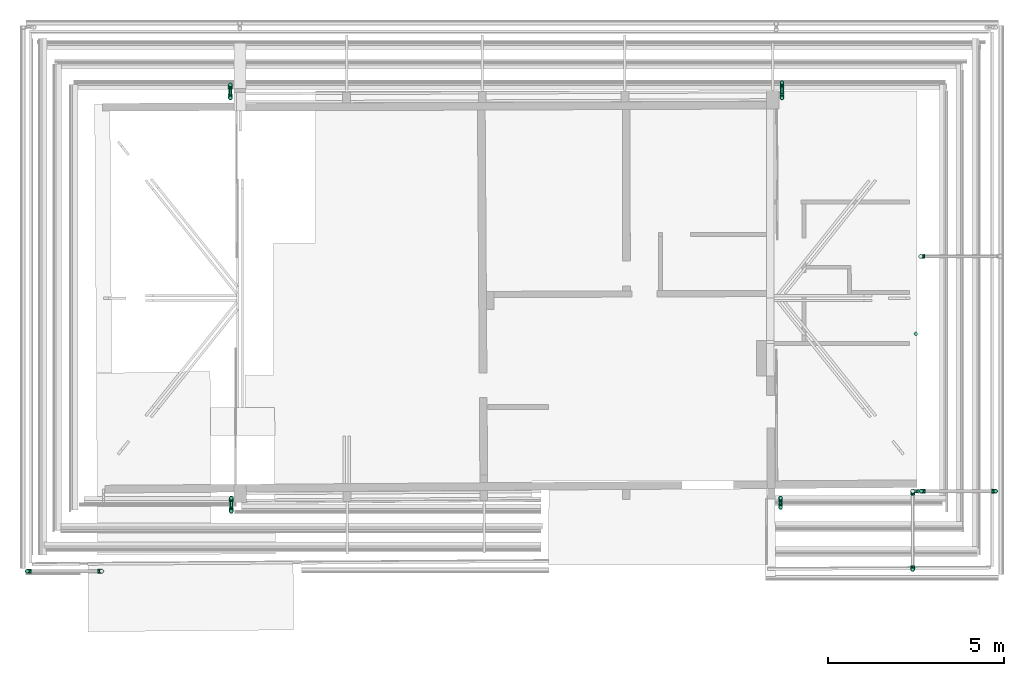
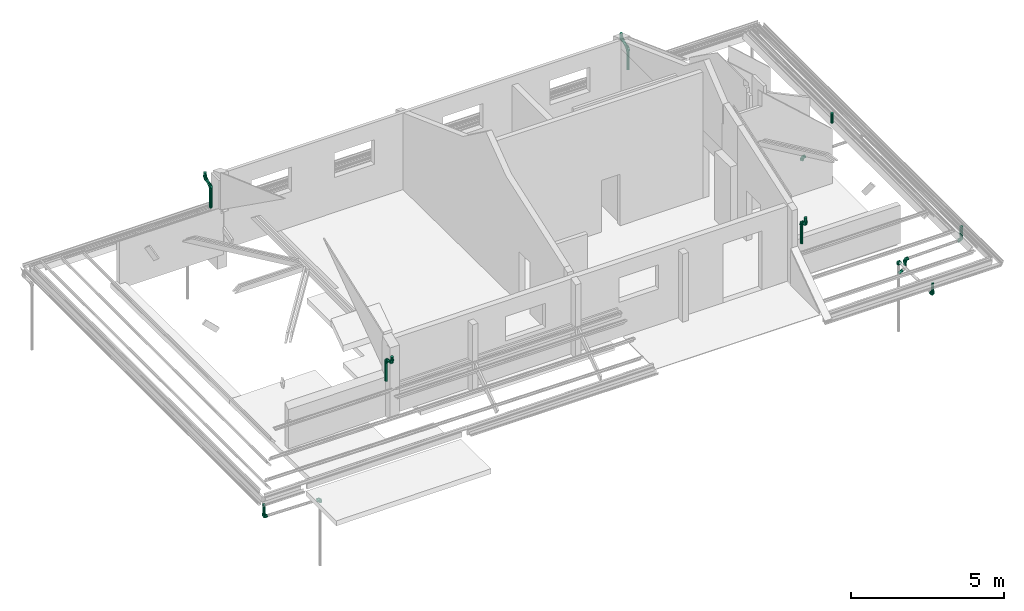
# One storey, part 12 of 15: 18 flow segments, 15 flow fittings.
"""IFC2X3 building model written with IfcOpenShell, lengths in centimetres."""

from ifc_helpers import new_model, entity, si_unit, converted_unit, direction, frame, frame_2d, origin, origin_2d_with_axis, place, context, subcontext, project, spatial, circle, extrude, faceted_brep, source, transform, mapped, material, type_object, type_shapes, element, save


model = new_model("IFC2X3")

# Units and contexts
model_context = context("Model", 3, precision=0.001, world=frame((0.0, 0.0, 13090.0)), true_north=direction((6.123233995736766e-17, 1.0)))
body_context = subcontext(model_context, "Body", "Model", "MODEL_VIEW")
ifc_project = project(units=[si_unit("LENGTHUNIT", "METRE", prefix="CENTI"), si_unit("AREAUNIT", "SQUARE_METRE"), si_unit("VOLUMEUNIT", "CUBIC_METRE"), converted_unit("PLANEANGLEUNIT", "DEGREE", entity("IfcPlaneAngleMeasure", 0.017453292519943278), si_unit("PLANEANGLEUNIT", "RADIAN"), dimensions=[0, 0, 0, 0, 0, 0, 0])], contexts=[model_context])

# Site, building, storey
site_placement = place(None, origin())
site = spatial("IfcSite", under=ifc_project, at=site_placement, Name="Default", CompositionType="ELEMENT")
building_placement = place(site_placement, origin())
building = spatial("IfcBuilding", under=site, at=building_placement, Name="e 39 logements et 22 maisons relais", CompositionType="ELEMENT")
storey_placement = place(building_placement, frame((0.0, 0.0, 340.0)))
storey = spatial("IfcBuildingStorey", under=building, at=storey_placement, Name="R+1", CompositionType="ELEMENT", Elevation=339.99999999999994)

# Flow segments
pipe_segment_type = type_object("IfcPipeSegmentType", Name="Canalisation:Par défaut", PredefinedType="NOTDEFINED")
flow_segment_1_placement = place(storey_placement, origin())
element("IfcFlowSegment", 1, at=flow_segment_1_placement, inside=storey, type_object=pipe_segment_type, Name="Canalisation:Par défaut", ObjectType="Canalisation:Par défaut", context=body_context, shape_type="SweptSolid", body=[
    extrude(circle(Radius=5.0, at=origin_2d_with_axis()), frame((1001.5149969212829, -795.4489017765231, -45.083642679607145), z_axis=(0.0, 0.0, 1.0), x_axis=(-1.0, 0.0, 0.0)), (0.0, 0.0, 1.0), 33.280613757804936),
])
flow_segment_2_placement = place(storey_placement, origin())
element("IfcFlowSegment", 2, at=flow_segment_2_placement, inside=storey, type_object=pipe_segment_type, Name="Canalisation:Par défaut", ObjectType="Canalisation:Par défaut", context=body_context, shape_type="SweptSolid", body=[
    extrude(circle(Radius=5.0, at=origin_2d_with_axis()), frame((-1517.8750086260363, -800.1747257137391, -45.25790675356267), z_axis=(0.0, 0.0, 1.0), x_axis=(-1.0, 0.0, 0.0)), (0.0, 0.0, 1.0), 37.757906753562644),
])
flow_segment_3_placement = place(storey_placement, origin())
element("IfcFlowSegment", 3, at=flow_segment_3_placement, inside=storey, type_object=pipe_segment_type, Name="Canalisation:Par défaut", ObjectType="Canalisation:Par défaut", context=body_context, shape_type="SweptSolid", body=[
    extrude(circle(Radius=5.0, at=frame_2d((1.0828671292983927e-13, 0.0), x_axis=(1.0, 0.0))), frame((-937.355660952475, -630.0993969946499, 261.7298994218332), z_axis=(0.0, 0.0, 1.0), x_axis=(-1.0, 0.0, 0.0)), (0.0, 0.0, 1.0), 12.28750000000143),
])
flow_segment_4_placement = place(storey_placement, origin())
element("IfcFlowSegment", 4, at=flow_segment_4_placement, inside=storey, type_object=pipe_segment_type, Name="Canalisation:Par défaut", ObjectType="Canalisation:Par défaut", context=body_context, shape_type="SweptSolid", body=[
    extrude(circle(Radius=5.0, at=origin_2d_with_axis()), frame((-937.355660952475, -602.8686130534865, 241.769581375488), z_axis=(0.0, -0.9510565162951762, 0.3090169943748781), x_axis=(1.0, 0.0, 0.0)), (0.0, 0.0, 1.0), 17.519640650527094),
])
flow_segment_5_placement = place(storey_placement, origin())
element("IfcFlowSegment", 5, at=flow_segment_5_placement, inside=storey, type_object=pipe_segment_type, Name="Canalisation:Par défaut", ObjectType="Canalisation:Par défaut", context=body_context, shape_type="SweptSolid", body=[
    extrude(circle(Radius=5.0, at=frame_2d((0.0, 1.0828671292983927e-13), x_axis=(1.0, 0.0))), frame((-937.3556609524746, -592.2999975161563, 154.13891369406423)), (0.0, 0.0, 1.0), 73.08421633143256),
])
flow_segment_6_placement = place(storey_placement, origin())
element("IfcFlowSegment", 6, at=flow_segment_6_placement, inside=storey, type_object=pipe_segment_type, Name="Canalisation:Par défaut", ObjectType="Canalisation:Par défaut", context=body_context, shape_type="SweptSolid", body=[
    extrude(circle(Radius=5.0, at=origin_2d_with_axis()), frame((625.7304951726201, -618.8203168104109, 258.1136363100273), z_axis=(0.0, 0.0, 1.0), x_axis=(-1.0, 0.0, 0.0)), (0.0, 0.0, 1.0), 15.621795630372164),
])
flow_segment_7_placement = place(storey_placement, origin())
element("IfcFlowSegment", 7, at=flow_segment_7_placement, inside=storey, type_object=pipe_segment_type, Name="Canalisation:Par défaut", ObjectType="Canalisation:Par défaut", context=body_context, shape_type="SweptSolid", body=[
    extrude(circle(Radius=5.0, at=origin_2d_with_axis()), frame((625.7304951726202, -602.8686130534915, 241.81811357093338), z_axis=(0.0, -0.9510565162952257, 0.3090169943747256), x_axis=(1.0, 0.0, 0.0)), (0.0, 0.0, 1.0), 5.660113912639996),
])
flow_segment_8_placement = place(storey_placement, origin())
element("IfcFlowSegment", 8, at=flow_segment_8_placement, inside=storey, type_object=pipe_segment_type, Name="Canalisation:Par défaut", ObjectType="Canalisation:Par défaut", context=body_context, shape_type="SweptSolid", body=[
    extrude(circle(Radius=5.0, at=origin_2d_with_axis()), frame((625.7304951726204, -592.2999975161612, 154.1874458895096)), (0.0, 0.0, 1.0), 73.08421633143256),
])
flow_segment_9_placement = place(storey_placement, origin())
element("IfcFlowSegment", 9, at=flow_segment_9_placement, inside=storey, type_object=pipe_segment_type, Name="Canalisation:Par défaut", ObjectType="Canalisation:Par défaut", context=body_context, shape_type="SweptSolid", body=[
    extrude(circle(Radius=5.0, at=origin_2d_with_axis()), frame((629.7832099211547, 590.146400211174, 263.676875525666)), (0.0, 0.0, 1.0), 8.764949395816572),
])
flow_segment_10_placement = place(storey_placement, origin())
element("IfcFlowSegment", 10, at=flow_segment_10_placement, inside=storey, type_object=pipe_segment_type, Name="Canalisation:Par défaut", ObjectType="Canalisation:Par défaut", context=body_context, shape_type="SweptSolid", body=[
    extrude(circle(Radius=5.0, at=origin_2d_with_axis()), frame((629.7832099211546, 557.0728067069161, 241.81811357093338), z_axis=(0.0, 0.9510565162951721, 0.30901699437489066), x_axis=(-1.0, 0.0, 0.0)), (0.0, 0.0, 1.0), 23.663134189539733),
])
flow_segment_11_placement = place(storey_placement, origin())
element("IfcFlowSegment", 11, at=flow_segment_11_placement, inside=storey, type_object=pipe_segment_type, Name="Canalisation:Par défaut", ObjectType="Canalisation:Par défaut", context=body_context, shape_type="SweptSolid", body=[
    extrude(circle(Radius=5.0, at=origin_2d_with_axis()), frame((629.7832099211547, 546.5041911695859, 154.1874458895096)), (0.0, 0.0, 1.0), 73.08421633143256),
])
flow_segment_12_placement = place(storey_placement, origin())
element("IfcFlowSegment", 12, at=flow_segment_12_placement, inside=storey, type_object=pipe_segment_type, Name="Canalisation:Par défaut", ObjectType="Canalisation:Par défaut", context=body_context, shape_type="SweptSolid", body=[
    extrude(circle(Radius=5.0, at=origin_2d_with_axis()), frame((-939.9537146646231, 583.7188617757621, 261.58844168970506), z_axis=(0.0, 0.0, 1.0), x_axis=(-1.0, 0.0, 0.0)), (0.0, 0.0, 1.0), 10.587500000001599),
])
flow_segment_13_placement = place(storey_placement, origin())
element("IfcFlowSegment", 13, at=flow_segment_13_placement, inside=storey, type_object=pipe_segment_type, Name="Canalisation:Par défaut", ObjectType="Canalisation:Par défaut", context=body_context, shape_type="SweptSolid", body=[
    extrude(circle(Radius=5.0, at=origin_2d_with_axis()), frame((-939.953714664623, 557.072806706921, 241.81811357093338), z_axis=(0.0, 0.9510565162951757, 0.30901699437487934), x_axis=(-1.0, 0.0, 0.0)), (0.0, 0.0, 1.0), 16.90482032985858),
])
flow_segment_14_placement = place(storey_placement, origin())
element("IfcFlowSegment", 14, at=flow_segment_14_placement, inside=storey, type_object=pipe_segment_type, Name="Canalisation:Par défaut", ObjectType="Canalisation:Par défaut", context=body_context, shape_type="SweptSolid", body=[
    extrude(circle(Radius=5.0, at=origin_2d_with_axis()), frame((-939.9537146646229, 546.5041911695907, 154.1874458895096)), (0.0, 0.0, 1.0), 73.08421633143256),
])
flow_segment_15_placement = place(storey_placement, origin())
element("IfcFlowSegment", 15, at=flow_segment_15_placement, inside=storey, type_object=pipe_segment_type, Name="Canalisation:Par défaut", ObjectType="Canalisation:Par défaut", context=body_context, shape_type="SweptSolid", body=[
    extrude(circle(Radius=5.0, at=origin_2d_with_axis()), frame((1237.9420113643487, -572.5218873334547, -45.083642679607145), z_axis=(0.0, 0.0, 1.0), x_axis=(-1.0, 0.0, 0.0)), (0.0, 0.0, 1.0), 41.2),
])
flow_segment_16_placement = place(storey_placement, origin())
element("IfcFlowSegment", 16, at=flow_segment_16_placement, inside=storey, type_object=pipe_segment_type, Name="Canalisation:Par défaut", ObjectType="Canalisation:Par défaut", context=body_context, shape_type="SweptSolid", body=[
    extrude(circle(Radius=5.0, at=origin_2d_with_axis()), frame((1002.1455516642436, -572.521887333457, -109.35900141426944), z_axis=(0.8746197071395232, 0.0, 0.4848096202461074), x_axis=(0.0, 1.0, 0.0)), (0.0, 0.0, 1.0), 16.88750000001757),
])
flow_segment_17_placement = place(storey_placement, origin())
element("IfcFlowSegment", 17, at=flow_segment_17_placement, inside=storey, type_object=pipe_segment_type, Name="Canalisation:Par défaut", ObjectType="Canalisation:Par défaut", context=body_context, shape_type="SweptSolid", body=[
    extrude(circle(Radius=5.0, at=frame_2d((0.0, 1.0828671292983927e-13), x_axis=(1.0, 0.0))), frame((1026.3066515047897, -572.521887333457, -85.46392347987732)), (0.0, 0.0, 1.0), 11.99321650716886),
])
flow_segment_18_placement = place(storey_placement, origin())
element("IfcFlowSegment", 18, at=flow_segment_18_placement, inside=storey, type_object=pipe_segment_type, Name="Canalisation:Par défaut", ObjectType="Canalisation:Par défaut", context=body_context, shape_type="SweptSolid", body=[
    extrude(circle(Radius=5.0, at=origin_2d_with_axis()), frame((1010.5066515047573, -124.77594297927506, 215.92324506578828)), (0.0, 0.0, 1.0), 38.50000000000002),
])

# Flow fittings
ifc_material = material(Name="<Unnamed>")
pipe_fitting_type_1 = type_object("IfcPipeFittingType", Name="Coude - PVC - Nom. 40:Standard", PredefinedType="NOTDEFINED", material=ifc_material)
shared_shape_1 = source(origin(), body_context, "Body", "Brep", [
    faceted_brep([(-11.542093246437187, -1.6435009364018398, -6.133628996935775), (-11.542093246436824, -5.499261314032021, -3.1750000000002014), (-11.542093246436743, -6.350000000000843, 0.0), (-11.542093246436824, -5.499261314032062, 3.1749999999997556), (-11.542093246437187, -1.6435009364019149, 6.13362899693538), (-11.542093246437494, 1.6435009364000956, 6.133628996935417), (-11.542093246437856, 5.4992613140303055, 3.17499999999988), (-11.542093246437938, 6.3499999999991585, 0.0), (-11.542093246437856, 5.499261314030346, -3.175000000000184), (-11.542093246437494, 1.643500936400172, -6.13362899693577), (-6.302073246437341, -6.350000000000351, 0.0), (-6.302073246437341, -5.49926131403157, 3.1749999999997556), (-6.302073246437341, -1.6435009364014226, 6.13362899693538), (-6.30207324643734, 1.643500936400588, 6.133628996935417), (1.8739680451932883, 11.506922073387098, 6.13362899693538), (-1.4123766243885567, 11.572648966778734, 6.133628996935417), (-1.517156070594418, 6.333676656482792, 6.133628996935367), (1.7691885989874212, 6.267949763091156, 6.13362899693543), (-6.302073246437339, 5.4992613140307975, 3.17499999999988), (-6.302073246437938, 6.349999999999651, 0.0), (-6.302073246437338, 5.499261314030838, -3.175000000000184), (-6.30207324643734, 1.6435009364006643, -6.13362899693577), (-6.302073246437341, -1.6435009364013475, -6.133628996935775), (-1.412376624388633, 11.572648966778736, -6.13362899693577), (1.8739680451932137, 11.5069220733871, -6.133628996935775), (1.7691885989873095, 6.267949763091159, -6.133628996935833), (-1.517156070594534, 6.333676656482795, -6.133628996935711), (-6.302073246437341, -5.4992613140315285, -3.1750000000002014), (-0.1608566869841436, 0.16410532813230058, 5.901628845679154), (-2.1057190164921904, -4.11757864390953, 4.012363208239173), (-0.8295113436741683, -3.602819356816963, 0.0), (4.10352219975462, 1.7165620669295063, 3.9224092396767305), (5.624178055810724, 6.190849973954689, 3.1749999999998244), (3.945789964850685, -1.2056577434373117, 0.0), (-6.246510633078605, 6.372690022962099, 0.0), (-5.3721455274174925, 6.410776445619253, 3.1749999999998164), (-3.6626994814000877, 3.736685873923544, 5.766543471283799), (6.474746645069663, 6.173838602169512, 0.0), (-6.2227141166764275, 6.427787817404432, 0.0), (-2.1057189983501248, -4.117578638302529, -4.01236320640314), (4.103522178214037, 1.7165620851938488, -3.9224092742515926), (-0.16085660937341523, 0.16410534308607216, -5.9016288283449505), (-5.372145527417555, 6.410776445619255, -3.175000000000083), (-3.662699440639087, 3.7366858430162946, -5.766543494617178), (5.624178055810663, 6.190849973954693, -3.175000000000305), (-5.267366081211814, 11.6497487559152, -3.175000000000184), (-6.117934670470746, 11.666760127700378, 0.0), (-5.267366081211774, 11.649748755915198, 3.17499999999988), (5.728957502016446, 11.429822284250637, 3.1749999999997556), (6.579526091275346, 11.412810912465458, 0.0), (5.728957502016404, 11.429822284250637, -3.1750000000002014)], [[[0, 1, 2, 3, 4, 5, 6, 7, 8, 9]], [[2, 10, 11, 3]], [[3, 11, 12, 4]], [[12, 13, 5, 4]], [[14, 15, 16, 17]], [[5, 13, 18, 6]], [[6, 18, 19, 7]], [[7, 19, 20, 8]], [[8, 20, 21, 9]], [[21, 22, 0, 9]], [[23, 24, 25, 26]], [[0, 22, 27, 1]], [[1, 27, 10, 2]], [[12, 28, 13]], [[29, 11, 30]], [[29, 31, 28]], [[28, 12, 29]], [[32, 31, 33]], [[34, 18, 35]], [[18, 36, 35]], [[34, 19, 18]], [[18, 13, 36]], [[11, 10, 30]], [[29, 33, 31]], [[33, 37, 32]], [[33, 29, 30]], [[32, 17, 31]], [[28, 36, 13]], [[34, 35, 38]], [[29, 12, 11]], [[36, 16, 35]], [[36, 28, 16]], [[17, 28, 31]], [[16, 28, 17]], [[20, 19, 34]], [[39, 40, 33]], [[39, 41, 40]], [[20, 42, 43]], [[39, 30, 27]], [[41, 21, 43]], [[44, 40, 25]], [[41, 43, 26]], [[27, 30, 10]], [[20, 34, 42]], [[42, 26, 43]], [[41, 25, 40]], [[39, 27, 22]], [[25, 41, 26]], [[40, 44, 33]], [[22, 21, 41]], [[44, 37, 33]], [[22, 41, 39]], [[39, 33, 30]], [[20, 43, 21]], [[42, 34, 38]], [[23, 45, 46, 47, 15, 14, 48, 49, 50, 24]], [[37, 49, 48, 32]], [[32, 48, 14, 17]], [[16, 15, 47, 35]], [[35, 47, 46, 38]], [[38, 46, 45, 42]], [[42, 45, 23, 26]], [[25, 24, 50, 44]], [[44, 50, 49, 37]]]),
])
type_shapes(pipe_fitting_type_1, [shared_shape_1])
for number, where, z_axis, x_axis, name in (
    (19, (1001.514996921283, -795.4489017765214, -56.62573592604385), (1.0, 0.0, 0.0), (0.0, 0.0, -1.0), "Coude - PVC - Nom. 40:Standard"),
    (20, (1001.5149969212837, -572.5218873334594, -61.08427621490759), (-1.0, 0.0, 0.0), (0.0, 0.9998000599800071, -0.01999600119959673), "Coude - PVC - Nom. 40:Standard"),
    (21, (-1517.8750086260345, -800.1747257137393, -56.79999999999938), (0.0, -1.0, 0.0), (0.0, 0.0, -1.0), "Coude - PVC - Nom. 40:Standard"),
    (22, (-1306.1655472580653, -800.174725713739, -61.034189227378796), (0.0, 1.0, 0.0), (0.9998000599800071, 0.0, -0.019996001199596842), "Coude - PVC - Nom. 40:Standard"),
    (23, (1237.942011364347, -572.5218873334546, -56.62573592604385), (0.0, 1.0, 0.0), (0.0, 0.0, -1.0), "Coude - PVC - Nom. 40:Standard"),
    (24, (1026.306651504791, -572.521887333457, -61.92861372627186), (0.0, -1.0, 0.0), (-0.9998000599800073, 0.0, -0.019996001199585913), "Coude - PVC - Nom. 40:Standard"),
    (25, (1024.506651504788, 95.57811266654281, -60.624443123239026), (0.0, -1.0, 0.0), (-0.9998000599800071, 0.0, -0.019996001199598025), "Coude - PVC - Nom. 40:Standard"),
):
    element("IfcFlowFitting", number, at=place(storey_placement, frame(where, z_axis=z_axis, x_axis=x_axis)), inside=storey, type_object=pipe_fitting_type_1, material=ifc_material, Name=name, ObjectType="Coude - PVC - Nom. 40:Standard", context=body_context, shape_type="MappedRepresentation", body=[
        mapped(shared_shape_1, transform((0.0, 0.0, 0.0), scale=1.0)),
    ])
pipe_fitting_type_2 = type_object("IfcPipeFittingType", Name="Coude - PVC - Nom. 40:Standard", PredefinedType="NOTDEFINED", material=ifc_material)
shared_shape_2 = source(origin(), body_context, "Body", "Brep", [
    faceted_brep([(-11.112499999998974, -1.6435009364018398, -6.133628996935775), (-11.11249999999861, -5.499261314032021, -3.1750000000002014), (-11.112499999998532, -6.350000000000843, 0.0), (-11.11249999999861, -5.499261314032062, 3.1749999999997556), (-11.112499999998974, -1.6435009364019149, 6.13362899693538), (-11.112499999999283, 1.6435009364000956, 6.133628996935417), (-11.112499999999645, 5.4992613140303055, 3.17499999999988), (-11.112499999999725, 6.3499999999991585, 0.0), (-11.112499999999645, 5.499261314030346, -3.175000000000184), (-11.112499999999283, 1.643500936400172, -6.13362899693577), (-5.872479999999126, -6.3500000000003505, 0.0), (-5.872479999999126, -5.499261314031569, 3.1749999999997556), (-5.872479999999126, -1.6435009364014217, 6.13362899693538), (-5.872479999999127, 1.6435009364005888, 6.133628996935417), (4.997013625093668, 10.060745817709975, 6.13362899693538), (1.870889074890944, 11.07648525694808, 6.133628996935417), (0.25163384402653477, 6.092930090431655, 6.133628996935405), (3.3777583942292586, 5.077190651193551, 6.133628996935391), (-5.872479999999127, 5.499261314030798, 3.17499999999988), (-5.872479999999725, 6.3499999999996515, 0.0), (-5.872479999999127, 5.499261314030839, -3.1750000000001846), (-5.872479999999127, 1.6435009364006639, -6.13362899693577), (-5.8724799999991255, -1.643500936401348, -6.133628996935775), (1.8708890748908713, 11.076485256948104, -6.13362899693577), (4.997013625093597, 10.06074581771, -6.133628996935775), (3.377758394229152, 5.077190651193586, -6.133628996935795), (0.25163384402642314, 6.092930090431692, -6.133628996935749), (-5.872479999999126, -5.499261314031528, -3.1750000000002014), (1.4817017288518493, -2.894745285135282, 3.7417563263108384), (-0.23000252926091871, 0.3165706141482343, 6.166187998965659), (7.044804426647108, 3.8856951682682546, 3.1749999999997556), (4.0074345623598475, -2.438265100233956, 0.0), (-0.107258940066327, -4.067387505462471, 0.0), (-4.853980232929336, 6.680930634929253, 0.0), (-3.4154121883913, 7.284425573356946, 3.17499999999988), (7.853904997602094, 3.6228024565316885, 0.0), (-4.224512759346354, 7.547318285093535, 0.0), (-3.4154121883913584, 7.284425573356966, -3.175000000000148), (1.4817019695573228, -2.894745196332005, -3.7417562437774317), (-0.23000243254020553, 0.3165701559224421, -6.166187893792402), (7.044804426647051, 3.885695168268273, -3.175000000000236), (-1.796156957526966, 12.267980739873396, -3.175000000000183), (-2.6052575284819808, 12.530873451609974, 0.0), (-1.7961569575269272, 12.267980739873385, 3.17499999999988), (8.66405965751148, 8.869250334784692, 3.1749999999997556), (9.473160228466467, 8.606357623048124, 0.0), (8.664059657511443, 8.869250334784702, -3.1750000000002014)], [[[0, 1, 2, 3, 4, 5, 6, 7, 8, 9]], [[2, 10, 11, 3]], [[3, 11, 12, 4]], [[12, 13, 5, 4]], [[14, 15, 16, 17]], [[5, 13, 18, 6]], [[6, 18, 19, 7]], [[7, 19, 20, 8]], [[8, 20, 21, 9]], [[21, 22, 0, 9]], [[23, 24, 25, 26]], [[0, 22, 27, 1]], [[1, 27, 10, 2]], [[28, 29, 12]], [[30, 28, 31]], [[13, 12, 29]], [[11, 28, 12]], [[32, 28, 11]], [[33, 18, 34]], [[33, 19, 18]], [[34, 18, 13, 16]], [[31, 28, 32]], [[31, 35, 30]], [[11, 10, 32]], [[17, 29, 28]], [[33, 34, 36]], [[17, 16, 29]], [[13, 29, 16]], [[30, 17, 28]], [[20, 19, 33]], [[32, 10, 27]], [[21, 20, 37, 26]], [[32, 38, 31]], [[21, 26, 39]], [[25, 40, 38]], [[27, 22, 38]], [[20, 33, 37]], [[38, 39, 25]], [[26, 25, 39]], [[39, 22, 21]], [[40, 31, 38]], [[27, 38, 32]], [[40, 35, 31]], [[22, 39, 38]], [[37, 33, 36]], [[23, 41, 42, 43, 15, 14, 44, 45, 46, 24]], [[35, 45, 44, 30]], [[30, 44, 14, 17]], [[16, 15, 43, 34]], [[34, 43, 42, 36]], [[36, 42, 41, 37]], [[37, 41, 23, 26]], [[25, 24, 46, 40]], [[40, 46, 45, 35]]]),
])
type_shapes(pipe_fitting_type_2, [shared_shape_2])
for number, where, z_axis, x_axis, name in (
    (26, (-937.3556609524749, -630.099396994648, 250.61739942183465), (1.0, 0.0, 0.0), (0.0, 0.0, -1.0), "Coude - PVC - Nom. 40:Standard"),
    (27, (-937.3556609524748, -592.2999975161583, 238.33563002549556), (-1.0, 0.0, 0.0), (0.0, 0.9510565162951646, -0.3090169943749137), "Coude - PVC - Nom. 40:Standard"),
    (28, (625.7304951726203, -618.8203168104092, 247.0011363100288), (1.0, 0.0, 0.0), (0.0, 0.0, -1.0), "Coude - PVC - Nom. 40:Standard"),
    (29, (625.7304951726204, -592.2999975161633, 238.38416222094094), (-1.0, 0.0, 0.0), (0.0, 0.9510565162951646, -0.3090169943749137), "Coude - PVC - Nom. 40:Standard"),
):
    element("IfcFlowFitting", number, at=place(storey_placement, frame(where, z_axis=z_axis, x_axis=x_axis)), inside=storey, type_object=pipe_fitting_type_2, material=ifc_material, Name=name, ObjectType="Coude - PVC - Nom. 40:Standard", context=body_context, shape_type="MappedRepresentation", body=[
        mapped(shared_shape_2, transform((0.0, 0.0, 0.0), scale=1.0)),
    ])
pipe_fitting_type_3 = type_object("IfcPipeFittingType", Name="Coude - PVC - Nom. 40:Standard", PredefinedType="NOTDEFINED", material=ifc_material)
shared_shape_3 = source(origin(), body_context, "Body", "Brep", [
    faceted_brep([(-11.112499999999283, -1.643500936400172, -6.13362899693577), (-11.112499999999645, -5.499261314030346, -3.175000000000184), (-11.112499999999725, -6.3499999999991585, 0.0), (-11.112499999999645, -5.4992613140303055, 3.17499999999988), (-11.112499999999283, -1.6435009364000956, 6.133628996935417), (-11.112499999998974, 1.6435009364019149, 6.13362899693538), (-11.11249999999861, 5.499261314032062, 3.1749999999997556), (-11.112499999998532, 6.350000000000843, 0.0), (-11.11249999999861, 5.499261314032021, -3.1750000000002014), (-11.112499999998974, 1.6435009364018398, -6.133628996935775), (-5.872479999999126, 5.499261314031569, 3.1749999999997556), (-5.8724799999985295, 6.3500000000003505, 0.0), (-5.872479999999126, 1.6435009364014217, 6.13362899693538), (-5.872479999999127, -1.6435009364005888, 6.133628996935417), (3.3777583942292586, -5.077190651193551, 6.133628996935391), (0.25163384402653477, -6.092930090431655, 6.133628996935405), (1.870889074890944, -11.07648525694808, 6.133628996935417), (4.997013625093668, -10.060745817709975, 6.13362899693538), (-5.872479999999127, -5.499261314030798, 3.17499999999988), (-5.872479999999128, -6.3499999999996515, 0.0), (-5.872479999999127, -5.499261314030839, -3.1750000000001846), (-5.872479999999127, -1.6435009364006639, -6.13362899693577), (-5.8724799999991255, 1.643500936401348, -6.133628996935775), (0.25163384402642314, -6.092930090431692, -6.133628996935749), (3.377758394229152, -5.077190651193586, -6.133628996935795), (4.997013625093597, -10.06074581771, -6.133628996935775), (1.8708890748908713, -11.076485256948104, -6.13362899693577), (-5.872479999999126, 5.499261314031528, -3.1750000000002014), (1.0805625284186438, 4.56476210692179, 0.0), (2.2951946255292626, 2.3037081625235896, 3.741756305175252), (-0.23000252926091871, -0.3165706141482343, 6.166187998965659), (-3.4154121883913, -7.284425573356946, 3.17499999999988), (-4.853980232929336, -6.680930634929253, 0.0), (3.901460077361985, 1.154882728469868, 0.0), (7.044804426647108, -3.8856951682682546, 3.1749999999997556), (7.853904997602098, -3.6228024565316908, 0.0), (-4.224512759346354, -7.547318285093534, 0.0), (7.044804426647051, -3.885695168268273, -3.175000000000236), (2.2951948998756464, 2.303707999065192, -3.741756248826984), (-3.4154121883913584, -7.284425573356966, -3.175000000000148), (-0.23000243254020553, -0.3165701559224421, -6.166187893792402), (8.664059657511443, -8.869250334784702, -3.1750000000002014), (9.473160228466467, -8.606357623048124, 0.0), (8.66405965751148, -8.869250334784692, 3.1749999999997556), (-1.7961569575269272, -12.267980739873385, 3.17499999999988), (-2.6052575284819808, -12.530873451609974, 0.0), (-1.796156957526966, -12.267980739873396, -3.175000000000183)], [[[0, 1, 2, 3, 4, 5, 6, 7, 8, 9]], [[10, 11, 7, 6]], [[12, 10, 6, 5]], [[5, 4, 13, 12]], [[14, 15, 16, 17]], [[18, 13, 4, 3]], [[19, 18, 3, 2]], [[20, 19, 2, 1]], [[21, 20, 1, 0]], [[0, 9, 22, 21]], [[23, 24, 25, 26]], [[27, 22, 9, 8]], [[11, 27, 8, 7]], [[10, 28, 11]], [[28, 10, 29]], [[12, 30, 29]], [[29, 30, 14]], [[30, 12, 13]], [[13, 18, 31, 15]], [[19, 32, 18]], [[29, 10, 12]], [[33, 29, 34]], [[30, 15, 14]], [[15, 30, 13]], [[29, 33, 28]], [[34, 35, 33]], [[31, 32, 36]], [[18, 32, 31]], [[29, 14, 34]], [[33, 35, 37]], [[24, 38, 37]], [[20, 21, 23, 39]], [[23, 21, 40]], [[28, 27, 11]], [[40, 22, 38]], [[22, 27, 38]], [[32, 19, 20]], [[39, 36, 32]], [[24, 40, 38]], [[28, 38, 27]], [[40, 24, 23]], [[38, 28, 33]], [[37, 38, 33]], [[21, 22, 40]], [[32, 20, 39]], [[25, 41, 42, 43, 17, 16, 44, 45, 46, 26]], [[43, 42, 35, 34]], [[17, 43, 34, 14]], [[44, 16, 15, 31]], [[45, 44, 31, 36]], [[46, 45, 36, 39]], [[26, 46, 39, 23]], [[41, 25, 24, 37]], [[42, 41, 37, 35]]]),
])
type_shapes(pipe_fitting_type_3, [shared_shape_3])
for number, where, z_axis, x_axis, name in (
    (30, (629.7832099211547, 590.146400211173, 252.56437552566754), (1.0, 0.0, 0.0), (0.0, 0.0, -1.0), "Coude - PVC - Nom. 40:Standard"),
    (31, (629.7832099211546, 546.504191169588, 238.38416222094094), (-1.0, 0.0, 0.0), (0.0, -0.9510565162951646, -0.3090169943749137), "Coude - PVC - Nom. 40:Standard"),
    (32, (-939.9537146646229, 583.7188617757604, 250.47594168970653), (1.0, 0.0, 0.0), (0.0, 0.0, -1.0), "Coude - PVC - Nom. 40:Standard"),
    (33, (-939.953714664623, 546.5041911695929, 238.38416222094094), (-1.0, 0.0, 0.0), (0.0, -0.9510565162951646, -0.3090169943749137), "Coude - PVC - Nom. 40:Standard"),
):
    element("IfcFlowFitting", number, at=place(storey_placement, frame(where, z_axis=z_axis, x_axis=x_axis)), inside=storey, type_object=pipe_fitting_type_3, material=ifc_material, Name=name, ObjectType="Coude - PVC - Nom. 40:Standard", context=body_context, shape_type="MappedRepresentation", body=[
        mapped(shared_shape_3, transform((0.0, 0.0, 0.0), scale=1.0)),
    ])

save(model, "model.ifc")
